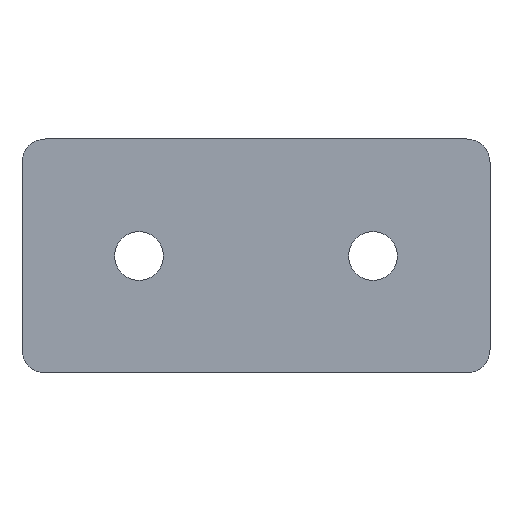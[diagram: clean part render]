
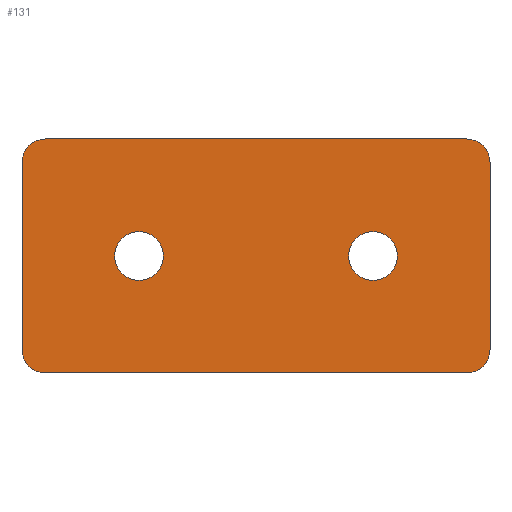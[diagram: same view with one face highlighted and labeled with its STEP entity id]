
A CAD part, front view. The second image highlights one B-rep face of the part: STEP entity #131.
In plain terms, the highlighted planar face has unit normal (0, -1, 0).
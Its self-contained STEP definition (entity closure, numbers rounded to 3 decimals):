
#6 = CARTESIAN_POINT ( 'NONE',  ( 36., -5., -20. ) ) ;
#16 = ORIENTED_EDGE ( 'NONE', *, *, #140, .T. ) ;
#18 = DIRECTION ( 'NONE',  ( 0., 0., 1. ) ) ;
#19 = VERTEX_POINT ( 'NONE', #36 ) ;
#25 = AXIS2_PLACEMENT_3D ( 'NONE', #34, #123, #484 ) ;
#33 = ORIENTED_EDGE ( 'NONE', *, *, #94, .T. ) ;
#34 = CARTESIAN_POINT ( 'NONE',  ( -40., -5., 20. ) ) ;
#36 = CARTESIAN_POINT ( 'NONE',  ( -20., -5., 4.15 ) ) ;
#45 = VECTOR ( 'NONE', #318, 1000. ) ;
#46 = AXIS2_PLACEMENT_3D ( 'NONE', #260, #257, #577 ) ;
#57 = AXIS2_PLACEMENT_3D ( 'NONE', #218, #347, #76 ) ;
#66 = VECTOR ( 'NONE', #227, 1000. ) ;
#75 = VECTOR ( 'NONE', #574, 1000. ) ;
#76 = DIRECTION ( 'NONE',  ( 0., 0., 1. ) ) ;
#79 = PLANE ( 'NONE',  #25 ) ;
#84 = AXIS2_PLACEMENT_3D ( 'NONE', #112, #150, #18 ) ;
#85 = CARTESIAN_POINT ( 'NONE',  ( -40., -5., 20. ) ) ;
#94 = EDGE_CURVE ( 'NONE', #590, #116, #302, .T. ) ;
#103 = ORIENTED_EDGE ( 'NONE', *, *, #339, .T. ) ;
#112 = CARTESIAN_POINT ( 'NONE',  ( -20., -5., 0. ) ) ;
#113 = ORIENTED_EDGE ( 'NONE', *, *, #247, .T. ) ;
#116 = VERTEX_POINT ( 'NONE', #529 ) ;
#123 = DIRECTION ( 'NONE',  ( 0., 1., 0. ) ) ;
#127 = EDGE_CURVE ( 'NONE', #341, #236, #312, .T. ) ;
#130 = AXIS2_PLACEMENT_3D ( 'NONE', #586, #136, #543 ) ;
#131 = ADVANCED_FACE ( 'NONE', ( #571, #441, #356 ), #79, .F. ) ;
#134 = ORIENTED_EDGE ( 'NONE', *, *, #398, .T. ) ;
#136 = DIRECTION ( 'NONE',  ( 0., 1., 0. ) ) ;
#138 = CARTESIAN_POINT ( 'NONE',  ( -40., -5., 20. ) ) ;
#139 = VERTEX_POINT ( 'NONE', #313 ) ;
#140 = EDGE_CURVE ( 'NONE', #266, #387, #210, .T. ) ;
#142 = DIRECTION ( 'NONE',  ( 0., 0., 1. ) ) ;
#150 = DIRECTION ( 'NONE',  ( 0., 1., 0. ) ) ;
#158 = AXIS2_PLACEMENT_3D ( 'NONE', #501, #366, #142 ) ;
#168 = CIRCLE ( 'NONE', #386, 4.15 ) ;
#173 = EDGE_CURVE ( 'NONE', #387, #580, #487, .T. ) ;
#180 = CARTESIAN_POINT ( 'NONE',  ( 40., -5., 20. ) ) ;
#183 = EDGE_LOOP ( 'NONE', ( #476, #572 ) ) ;
#197 = VERTEX_POINT ( 'NONE', #396 ) ;
#201 = CARTESIAN_POINT ( 'NONE',  ( -36., -5., -16. ) ) ;
#208 = CARTESIAN_POINT ( 'NONE',  ( -36., -5., -20. ) ) ;
#209 = VERTEX_POINT ( 'NONE', #488 ) ;
#210 = LINE ( 'NONE', #306, #75 ) ;
#212 = CIRCLE ( 'NONE', #506, 4.15 ) ;
#218 = CARTESIAN_POINT ( 'NONE',  ( 36., -5., -16. ) ) ;
#219 = ORIENTED_EDGE ( 'NONE', *, *, #173, .T. ) ;
#227 = DIRECTION ( 'NONE',  ( 0., 0., -1. ) ) ;
#236 = VERTEX_POINT ( 'NONE', #263 ) ;
#246 = CIRCLE ( 'NONE', #84, 4.15 ) ;
#247 = EDGE_CURVE ( 'NONE', #116, #348, #443, .T. ) ;
#250 = DIRECTION ( 'NONE',  ( 0., 0., -1. ) ) ;
#257 = DIRECTION ( 'NONE',  ( 0., -1., 0. ) ) ;
#260 = CARTESIAN_POINT ( 'NONE',  ( 36., -5., 16. ) ) ;
#263 = CARTESIAN_POINT ( 'NONE',  ( 36., -5., 20. ) ) ;
#266 = VERTEX_POINT ( 'NONE', #208 ) ;
#273 = LINE ( 'NONE', #180, #66 ) ;
#281 = CARTESIAN_POINT ( 'NONE',  ( 40., -5., 16. ) ) ;
#287 = DIRECTION ( 'NONE',  ( 0., 1., 0. ) ) ;
#288 = DIRECTION ( 'NONE',  ( 0., 0., 1. ) ) ;
#297 = EDGE_CURVE ( 'NONE', #139, #209, #555, .T. ) ;
#302 = CIRCLE ( 'NONE', #158, 4. ) ;
#306 = CARTESIAN_POINT ( 'NONE',  ( -40., -5., -20. ) ) ;
#310 = VECTOR ( 'NONE', #250, 1000. ) ;
#312 = CIRCLE ( 'NONE', #46, 4. ) ;
#313 = CARTESIAN_POINT ( 'NONE',  ( 20., -5., 4.15 ) ) ;
#318 = DIRECTION ( 'NONE',  ( 1., 0., 0. ) ) ;
#319 = EDGE_LOOP ( 'NONE', ( #103, #404 ) ) ;
#320 = EDGE_CURVE ( 'NONE', #341, #580, #273, .T. ) ;
#339 = EDGE_CURVE ( 'NONE', #197, #19, #168, .T. ) ;
#341 = VERTEX_POINT ( 'NONE', #281 ) ;
#345 = ORIENTED_EDGE ( 'NONE', *, *, #127, .T. ) ;
#346 = CARTESIAN_POINT ( 'NONE',  ( -36., -5., 20. ) ) ;
#347 = DIRECTION ( 'NONE',  ( 0., -1., 0. ) ) ;
#348 = VERTEX_POINT ( 'NONE', #539 ) ;
#356 = FACE_OUTER_BOUND ( 'NONE', #575, .T. ) ;
#362 = EDGE_CURVE ( 'NONE', #590, #236, #409, .T. ) ;
#365 = DIRECTION ( 'NONE',  ( 0., 1., 0. ) ) ;
#366 = DIRECTION ( 'NONE',  ( 0., -1., 0. ) ) ;
#382 = CARTESIAN_POINT ( 'NONE',  ( 20., -5., 0. ) ) ;
#385 = DIRECTION ( 'NONE',  ( 0., -1., 0. ) ) ;
#386 = AXIS2_PLACEMENT_3D ( 'NONE', #541, #365, #451 ) ;
#387 = VERTEX_POINT ( 'NONE', #6 ) ;
#396 = CARTESIAN_POINT ( 'NONE',  ( -20., -5., -4.15 ) ) ;
#398 = EDGE_CURVE ( 'NONE', #348, #266, #545, .T. ) ;
#404 = ORIENTED_EDGE ( 'NONE', *, *, #498, .T. ) ;
#409 = LINE ( 'NONE', #138, #45 ) ;
#427 = ORIENTED_EDGE ( 'NONE', *, *, #362, .F. ) ;
#441 = FACE_BOUND ( 'NONE', #183, .T. ) ;
#443 = LINE ( 'NONE', #85, #310 ) ;
#451 = DIRECTION ( 'NONE',  ( 0., 0., 1. ) ) ;
#463 = ORIENTED_EDGE ( 'NONE', *, *, #320, .F. ) ;
#476 = ORIENTED_EDGE ( 'NONE', *, *, #480, .T. ) ;
#480 = EDGE_CURVE ( 'NONE', #209, #139, #212, .T. ) ;
#484 = DIRECTION ( 'NONE',  ( 0., 0., 1. ) ) ;
#486 = AXIS2_PLACEMENT_3D ( 'NONE', #201, #385, #559 ) ;
#487 = CIRCLE ( 'NONE', #57, 4. ) ;
#488 = CARTESIAN_POINT ( 'NONE',  ( 20., -5., -4.15 ) ) ;
#498 = EDGE_CURVE ( 'NONE', #19, #197, #246, .T. ) ;
#501 = CARTESIAN_POINT ( 'NONE',  ( -36., -5., 16. ) ) ;
#506 = AXIS2_PLACEMENT_3D ( 'NONE', #382, #287, #288 ) ;
#529 = CARTESIAN_POINT ( 'NONE',  ( -40., -5., 16. ) ) ;
#539 = CARTESIAN_POINT ( 'NONE',  ( -40., -5., -16. ) ) ;
#541 = CARTESIAN_POINT ( 'NONE',  ( -20., -5., 0. ) ) ;
#543 = DIRECTION ( 'NONE',  ( 0., 0., 1. ) ) ;
#545 = CIRCLE ( 'NONE', #486, 4. ) ;
#555 = CIRCLE ( 'NONE', #130, 4.15 ) ;
#559 = DIRECTION ( 'NONE',  ( 0., 0., 1. ) ) ;
#571 = FACE_BOUND ( 'NONE', #319, .T. ) ;
#572 = ORIENTED_EDGE ( 'NONE', *, *, #297, .T. ) ;
#573 = CARTESIAN_POINT ( 'NONE',  ( 40., -5., -16. ) ) ;
#574 = DIRECTION ( 'NONE',  ( 1., 0., 0. ) ) ;
#575 = EDGE_LOOP ( 'NONE', ( #113, #134, #16, #219, #463, #345, #427, #33 ) ) ;
#577 = DIRECTION ( 'NONE',  ( 0., 0., 1. ) ) ;
#580 = VERTEX_POINT ( 'NONE', #573 ) ;
#586 = CARTESIAN_POINT ( 'NONE',  ( 20., -5., 0. ) ) ;
#590 = VERTEX_POINT ( 'NONE', #346 ) ;
